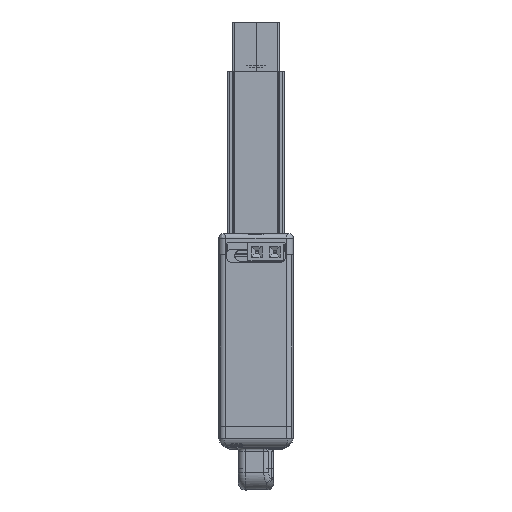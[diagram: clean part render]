
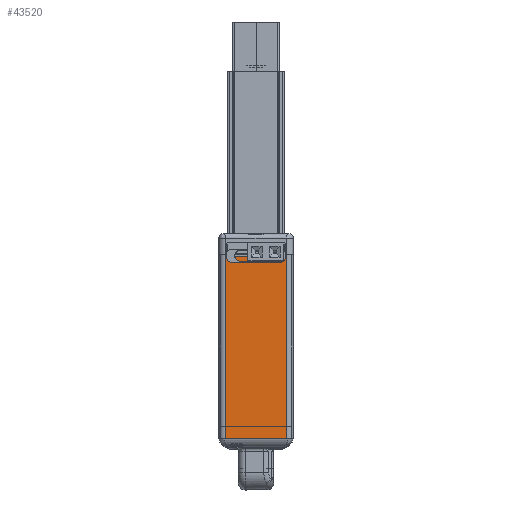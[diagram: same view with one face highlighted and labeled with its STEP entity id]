
A CAD part, top view. The second image highlights one B-rep face of the part: STEP entity #43520.
In plain terms, the highlighted planar face has unit normal (0, 0, 1).
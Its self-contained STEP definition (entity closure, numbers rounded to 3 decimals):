
#43212=DIRECTION('',(-1.,0.,0.));
#43213=VECTOR('',#43212,8.6);
#43214=CARTESIAN_POINT('',(-4.393,55.3,0.296));
#43215=LINE('',#43214,#43213);
#43216=DIRECTION('',(0.,1.,0.));
#43217=VECTOR('',#43216,26.);
#43218=CARTESIAN_POINT('',(-12.993,55.3,0.296));
#43219=LINE('',#43218,#43217);
#43220=DIRECTION('',(1.,0.,0.));
#43221=VECTOR('',#43220,8.6);
#43222=CARTESIAN_POINT('',(-12.993,81.3,0.296));
#43223=LINE('',#43222,#43221);
#43229=DIRECTION('',(0.,1.,0.));
#43230=VECTOR('',#43229,26.);
#43231=CARTESIAN_POINT('',(-4.393,55.3,0.296));
#43232=LINE('',#43231,#43230);
#43298=CARTESIAN_POINT('',(-12.993,55.3,0.296));
#43299=VERTEX_POINT('',#43298);
#43300=CARTESIAN_POINT('',(-4.393,55.3,0.296));
#43301=VERTEX_POINT('',#43300);
#43330=CARTESIAN_POINT('',(-12.993,81.3,0.296));
#43331=VERTEX_POINT('',#43330);
#43332=CARTESIAN_POINT('',(-4.393,81.3,0.296));
#43333=VERTEX_POINT('',#43332);
#43506=CARTESIAN_POINT('',(-12.993,55.3,0.296));
#43507=DIRECTION('',(0.,0.,1.));
#43508=DIRECTION('',(1.,0.,0.));
#43509=AXIS2_PLACEMENT_3D('',#43506,#43507,#43508);
#43510=PLANE('',#43509);
#43512=ORIENTED_EDGE('',*,*,#43511,.T.);
#43513=ORIENTED_EDGE('',*,*,#43501,.T.);
#43515=ORIENTED_EDGE('',*,*,#43514,.T.);
#43517=ORIENTED_EDGE('',*,*,#43516,.F.);
#43518=EDGE_LOOP('',(#43512,#43513,#43515,#43517));
#43519=FACE_OUTER_BOUND('',#43518,.F.);
#43520=ADVANCED_FACE('',(#43519),#43510,.T.);
#43501=EDGE_CURVE('',#43299,#43331,#43219,.T.);
#43511=EDGE_CURVE('',#43301,#43299,#43215,.T.);
#43514=EDGE_CURVE('',#43331,#43333,#43223,.T.);
#43516=EDGE_CURVE('',#43301,#43333,#43232,.T.);
